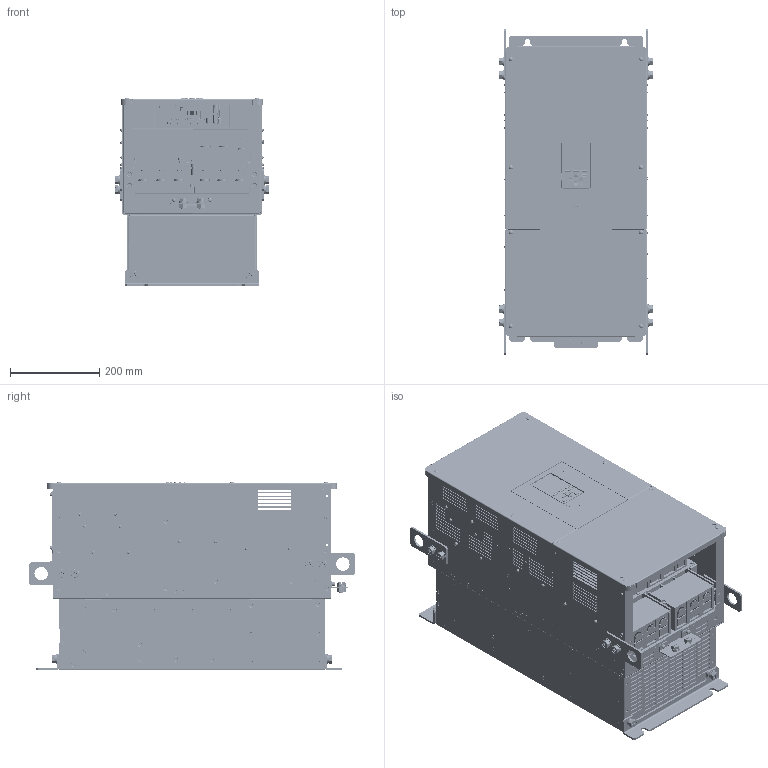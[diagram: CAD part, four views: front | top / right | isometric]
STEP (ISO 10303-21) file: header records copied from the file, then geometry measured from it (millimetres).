
FILE_DESCRIPTION((''),'2;1');
FILE_NAME('71617-GA70_C_4296_AB_B_Q_A_ASM','2017-04-07T',('toshi531'),('YASKAWA ELECTRIC CORCORATION'),'PRO/ENGINEER BY PARAMETRIC TECHNOLOGY CORPORATION, 2015110','PRO/ENGINEER BY PARAMETRIC TECHNOLOGY CORPORATION, 2015110','');
FILE_SCHEMA(('AUTOMOTIVE_DESIGN { 1 0 10303 214 1 1 1 1 }'));
Products named in the file (21): LAY-GA70_4296; GA70_4296_BODY; GA70_4296_MTG_PLATE_TOP; GEM_OPEN_SCREW_M10X20; GA70_4296_MTG_PLATE_BOTTOM; GA70_4296_FAN; GA70_4296_FAN_COVER; GA70_ALL_TB_TYPEB; GEM_OPEN_SCREW_M3P5X6; GEM_OPEN_SCREW_M3X15; GA70_ALL_LED; GA70_4296_IP20_COVER; GA70_4296_FP; GA70_ALL_USB_COVER; GA70_ALL_CONNECTOR; GA70_ALL_LCD_OPERATOR; GA70_4296_TB_COVER1; GA70_4296_TB_COVER2; GA70_4296_SCREW_GND; GA70_4296_FP2; 71617-GA70_C_4296_AB_B_Q_A_ASM
Assembly tree (26 placements, depth 2):
  71617-GA70_C_4296_AB_B_Q_A_ASM
    LAY-GA70_4296
    GA70_4296_BODY
    GA70_4296_MTG_PLATE_TOP
    GEM_OPEN_SCREW_M10X20  x4
    GA70_4296_MTG_PLATE_BOTTOM
    GA70_4296_FAN  x2
    GA70_4296_FAN_COVER
    GA70_ALL_TB_TYPEB
    GEM_OPEN_SCREW_M3P5X6
    GEM_OPEN_SCREW_M3X15
    GA70_ALL_LED
    GA70_4296_IP20_COVER
    GA70_4296_FP
    GA70_ALL_USB_COVER
    GA70_ALL_CONNECTOR
    GA70_ALL_LCD_OPERATOR
    GA70_4296_TB_COVER1  x2
    GA70_4296_TB_COVER2
    GA70_4296_SCREW_GND  x2
    GA70_4296_FP2
Bounding box: 344 x 731 x 422.5 mm (x, y, z)
Volume: 67632359.8 mm3; surface area: 2531796.2 mm2
Topology: 29 solids, 71 shells, 15026 faces, 38999 edges, 24801 vertices
Faces by surface type: plane 9524, cylinder 3710, cone 932, torus 415, bspline 202, sphere 148, extrusion 95
Entity records: 532001 total; most frequent: CARTESIAN_POINT 99200, ORIENTED_EDGE 72556, DIRECTION 70563, EDGE_CURVE 36278, VECTOR 25823, LINE 25756, VERTEX_POINT 23148, AXIS2_PLACEMENT_3D 22370
